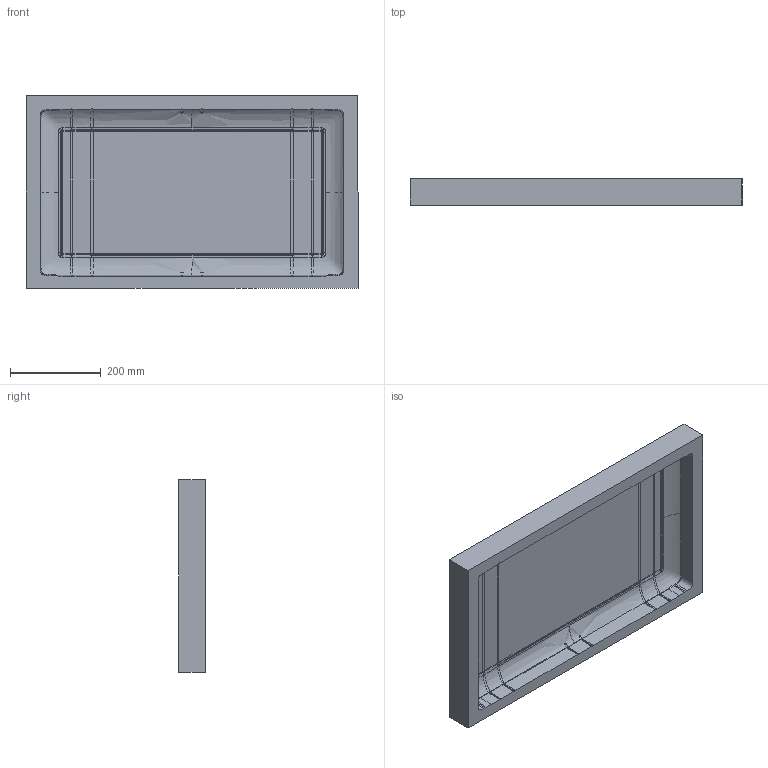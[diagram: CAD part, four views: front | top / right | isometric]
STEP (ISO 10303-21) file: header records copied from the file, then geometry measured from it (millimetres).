
FILE_DESCRIPTION (( 'STEP AP214' ), '1' );
FILE_NAME ('1605 Top Tub.STEP', '2019-02-13T21:42:01', ( '' ), ( '' ), 'SwSTEP 2.0', 'SolidWorks 2016', '' );
FILE_SCHEMA (( 'AUTOMOTIVE_DESIGN' ));
Length unit declared in the file: inch
Products named in the file (1): 1605 Top Tub
Bounding box: 733.3 x 58.8 x 425.98 mm (x, y, z)
Volume: 6147326.7 mm3; surface area: 837894.7 mm2
Topology: 1 solids, 1 shells, 235 faces, 614 edges, 382 vertices
Faces by surface type: bspline 98, cylinder 58, plane 43, torus 36
Entity records: 43206 total; most frequent: CARTESIAN_POINT 38344, ORIENTED_EDGE 1228, DIRECTION 718, EDGE_CURVE 614, VERTEX_POINT 382, AXIS2_PLACEMENT_3D 286, B_SPLINE_CURVE_WITH_KNOTS 286, EDGE_LOOP 236
